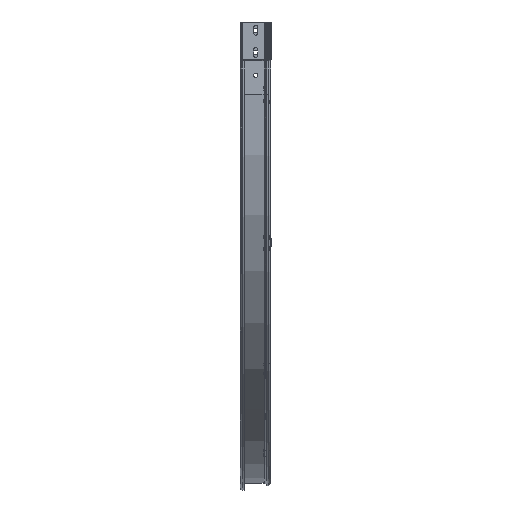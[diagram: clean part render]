
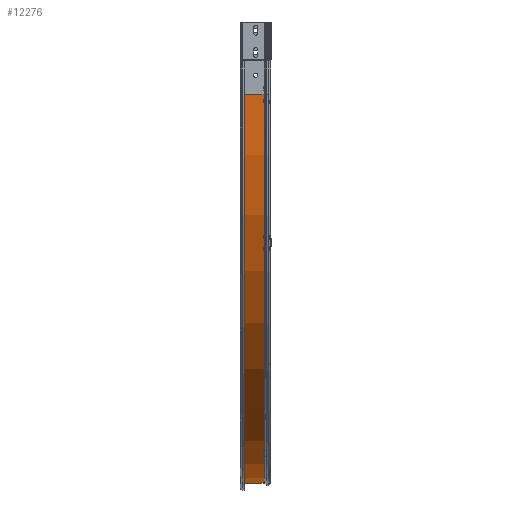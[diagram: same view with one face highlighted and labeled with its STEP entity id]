
A CAD part, left-side view. The second image highlights one B-rep face of the part: STEP entity #12276.
In plain terms, the highlighted cylindrical face has radius 801.2 mm (diameter 1602.4 mm), a partial arc.
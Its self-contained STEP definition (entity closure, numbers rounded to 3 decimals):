
#87 = CARTESIAN_POINT ( 'NONE',  ( -1.2, 59., -150. ) ) ;
#108 = DIRECTION ( 'NONE',  ( 0., 0., 1. ) ) ;
#389 = DIRECTION ( 'NONE',  ( 0., -1., 0. ) ) ;
#638 = CARTESIAN_POINT ( 'NONE',  ( -1.2, 14.319, -150. ) ) ;
#707 = CARTESIAN_POINT ( 'NONE',  ( 800., 14.319, -150. ) ) ;
#1063 = AXIS2_PLACEMENT_3D ( 'NONE', #707, #5649, #8916 ) ;
#3362 = AXIS2_PLACEMENT_3D ( 'NONE', #11247, #12189, #108 ) ;
#4203 = ORIENTED_EDGE ( 'NONE', *, *, #8477, .F. ) ;
#4227 = FACE_OUTER_BOUND ( 'NONE', #8560, .T. ) ;
#4685 = CIRCLE ( 'NONE', #1063, 801.2 ) ;
#5649 = DIRECTION ( 'NONE',  ( 0., 1., 0. ) ) ;
#5676 = LINE ( 'NONE', #9017, #11058 ) ;
#6249 = VERTEX_POINT ( 'NONE', #10976 ) ;
#6303 = CYLINDRICAL_SURFACE ( 'NONE', #6424, 801.2 ) ;
#6424 = AXIS2_PLACEMENT_3D ( 'NONE', #12450, #8305, #10529 ) ;
#7426 = ORIENTED_EDGE ( 'NONE', *, *, #9913, .T. ) ;
#7672 = VERTEX_POINT ( 'NONE', #87 ) ;
#7830 = CIRCLE ( 'NONE', #3362, 801.2 ) ;
#8291 = EDGE_CURVE ( 'NONE', #7672, #9562, #10795, .T. ) ;
#8305 = DIRECTION ( 'NONE',  ( 0., 1., 0. ) ) ;
#8477 = EDGE_CURVE ( 'NONE', #11382, #7672, #7830, .T. ) ;
#8560 = EDGE_LOOP ( 'NONE', ( #4203, #8723, #7426, #10688 ) ) ;
#8723 = ORIENTED_EDGE ( 'NONE', *, *, #9122, .F. ) ;
#8910 = VECTOR ( 'NONE', #389, 1000. ) ;
#8916 = DIRECTION ( 'NONE',  ( 0., 0., 1. ) ) ;
#9017 = CARTESIAN_POINT ( 'NONE',  ( 800., 14.319, -951.2 ) ) ;
#9122 = EDGE_CURVE ( 'NONE', #6249, #11382, #5676, .T. ) ;
#9562 = VERTEX_POINT ( 'NONE', #11741 ) ;
#9913 = EDGE_CURVE ( 'NONE', #6249, #9562, #4685, .T. ) ;
#10529 = DIRECTION ( 'NONE',  ( 0., 0., 1. ) ) ;
#10688 = ORIENTED_EDGE ( 'NONE', *, *, #8291, .F. ) ;
#10764 = DIRECTION ( 'NONE',  ( 0., 1., 0. ) ) ;
#10795 = LINE ( 'NONE', #638, #8910 ) ;
#10976 = CARTESIAN_POINT ( 'NONE',  ( 800., 14.319, -951.2 ) ) ;
#11058 = VECTOR ( 'NONE', #10764, 1000. ) ;
#11247 = CARTESIAN_POINT ( 'NONE',  ( 800., 59., -150. ) ) ;
#11382 = VERTEX_POINT ( 'NONE', #13036 ) ;
#11741 = CARTESIAN_POINT ( 'NONE',  ( -1.2, 14.319, -150. ) ) ;
#12189 = DIRECTION ( 'NONE',  ( 0., 1., 0. ) ) ;
#12276 = ADVANCED_FACE ( 'NONE', ( #4227 ), #6303, .T. ) ;
#12450 = CARTESIAN_POINT ( 'NONE',  ( 800., 0., -150. ) ) ;
#13036 = CARTESIAN_POINT ( 'NONE',  ( 800., 59., -951.2 ) ) ;
